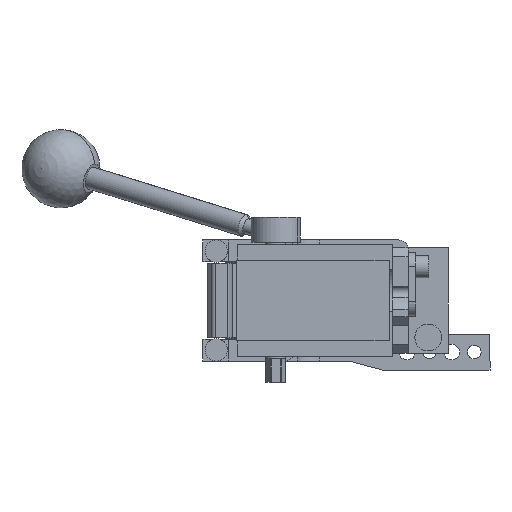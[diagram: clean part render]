
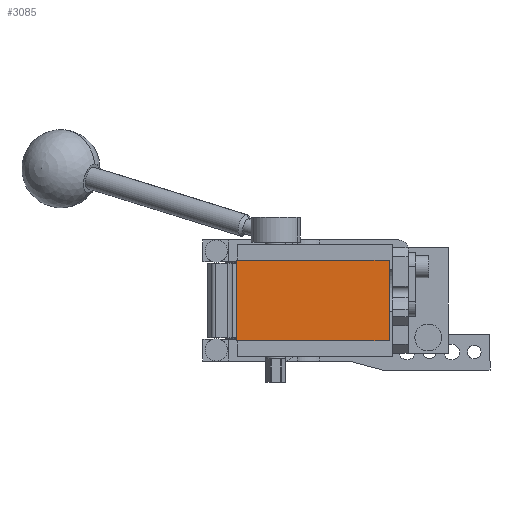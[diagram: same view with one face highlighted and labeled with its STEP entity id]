
A CAD part, front view. The second image highlights one B-rep face of the part: STEP entity #3085.
In plain terms, the highlighted planar face has unit normal (0, -1, 0).
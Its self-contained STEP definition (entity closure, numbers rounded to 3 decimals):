
#180 = LINE ( 'NONE', #10151, #8524 ) ;
#695 = DIRECTION ( 'NONE',  ( 1., 0., 0. ) ) ;
#926 = EDGE_CURVE ( 'NONE', #12860, #13654, #12985, .T. ) ;
#1281 = ORIENTED_EDGE ( 'NONE', *, *, #6566, .T. ) ;
#1967 = DIRECTION ( 'NONE',  ( -1., 0., 0. ) ) ;
#2130 = CARTESIAN_POINT ( 'NONE',  ( -6., -233., 18. ) ) ;
#2382 = CARTESIAN_POINT ( 'NONE',  ( -6., -233., -18. ) ) ;
#2413 = PLANE ( 'NONE',  #12239 ) ;
#3085 = ADVANCED_FACE ( 'NONE', ( #9925 ), #2413, .T. ) ;
#3266 = LINE ( 'NONE', #2130, #10659 ) ;
#4206 = VERTEX_POINT ( 'NONE', #8828 ) ;
#4778 = DIRECTION ( 'NONE',  ( 0., 0., -1. ) ) ;
#4933 = CARTESIAN_POINT ( 'NONE',  ( 0., -233., 0. ) ) ;
#5276 = VERTEX_POINT ( 'NONE', #2382 ) ;
#5776 = VECTOR ( 'NONE', #695, 1000. ) ;
#6566 = EDGE_CURVE ( 'NONE', #13654, #5276, #3266, .T. ) ;
#7553 = ORIENTED_EDGE ( 'NONE', *, *, #7839, .T. ) ;
#7839 = EDGE_CURVE ( 'NONE', #5276, #4206, #10824, .T. ) ;
#8524 = VECTOR ( 'NONE', #15126, 1000. ) ;
#8828 = CARTESIAN_POINT ( 'NONE',  ( 62., -233., -18. ) ) ;
#9305 = CARTESIAN_POINT ( 'NONE',  ( -6., -233., 18. ) ) ;
#9925 = FACE_OUTER_BOUND ( 'NONE', #12641, .T. ) ;
#10129 = EDGE_CURVE ( 'NONE', #4206, #12860, #180, .T. ) ;
#10151 = CARTESIAN_POINT ( 'NONE',  ( 62., -233., 18. ) ) ;
#10659 = VECTOR ( 'NONE', #12077, 1000. ) ;
#10824 = LINE ( 'NONE', #15976, #5776 ) ;
#11596 = CARTESIAN_POINT ( 'NONE',  ( -6., -233., 18. ) ) ;
#12077 = DIRECTION ( 'NONE',  ( 0., 0., -1. ) ) ;
#12239 = AXIS2_PLACEMENT_3D ( 'NONE', #4933, #12365, #4778 ) ;
#12365 = DIRECTION ( 'NONE',  ( 0., -1., 0. ) ) ;
#12531 = CARTESIAN_POINT ( 'NONE',  ( 62., -233., 18. ) ) ;
#12641 = EDGE_LOOP ( 'NONE', ( #1281, #7553, #13786, #16144 ) ) ;
#12729 = VECTOR ( 'NONE', #1967, 1000. ) ;
#12860 = VERTEX_POINT ( 'NONE', #12531 ) ;
#12985 = LINE ( 'NONE', #11596, #12729 ) ;
#13654 = VERTEX_POINT ( 'NONE', #9305 ) ;
#13786 = ORIENTED_EDGE ( 'NONE', *, *, #10129, .T. ) ;
#15126 = DIRECTION ( 'NONE',  ( 0., 0., 1. ) ) ;
#15976 = CARTESIAN_POINT ( 'NONE',  ( -6., -233., -18. ) ) ;
#16144 = ORIENTED_EDGE ( 'NONE', *, *, #926, .T. ) ;
